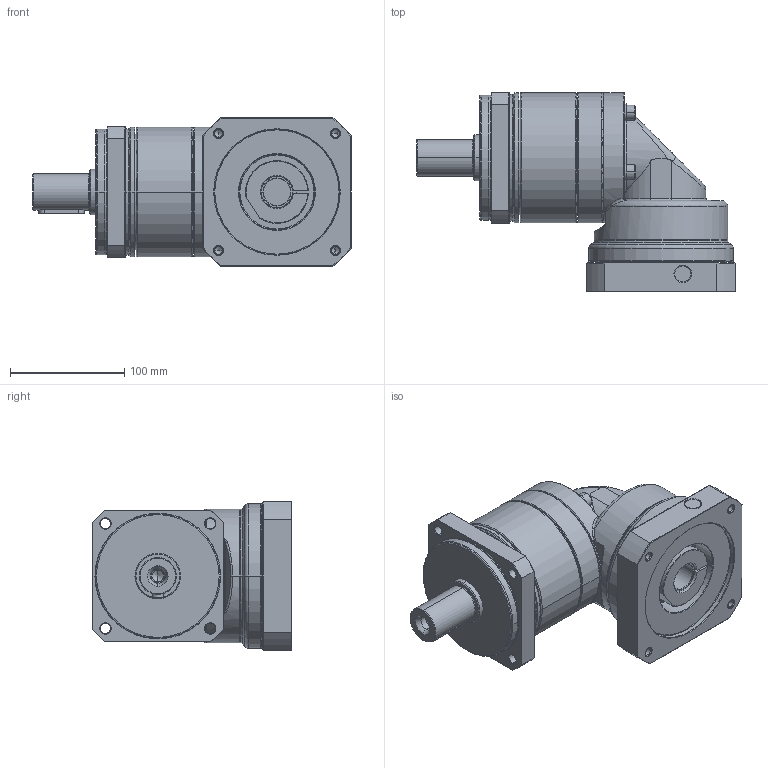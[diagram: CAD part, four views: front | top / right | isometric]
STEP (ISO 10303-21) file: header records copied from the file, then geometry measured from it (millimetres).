
FILE_DESCRIPTION((''),'2;1');
FILE_NAME('PA2R-115_1ST_24-P0411501606_ASM','2020-11-16T',('d01226'),(''),'PRO/ENGINEER BY PARAMETRIC TECHNOLOGY CORPORATION, 2015240','PRO/ENGINEER BY PARAMETRIC TECHNOLOGY CORPORATION, 2015240','');
FILE_SCHEMA(('CONFIG_CONTROL_DESIGN'));
Length unit declared in the file: millimetre
Products named in the file (12): P1327410001; P0250400001; P0350400601; P1349400001; P1017400001; P0713401001; P0503500008; P1350400101; P0411501606; P1702500001; 2111B108035; PA2R-115_1ST_24-P0411501606_ASM
Assembly tree (14 placements, depth 2):
  PA2R-115_1ST_24-P0411501606_ASM
    P1327410001
    P0250400001
    P0350400601
    P1349400001
    P1017400001
    P0713401001
    P0503500008
    P1350400101
    P0411501606
    P1702500001
    2111B108035  x4
Bounding box: 279 x 175 x 130 mm (x, y, z)
Volume: 2542504.4 mm3; surface area: 290779.7 mm2
Topology: 14 solids, 20 shells, 480 faces, 1045 edges, 618 vertices
Faces by surface type: cylinder 161, plane 145, cone 94, torus 60, bspline 20
Entity records: 12897 total; most frequent: CARTESIAN_POINT 3927, DIRECTION 1973, ORIENTED_EDGE 1698, EDGE_CURVE 861, AXIS2_PLACEMENT_3D 835, VERTEX_POINT 516, EDGE_LOOP 443, CIRCLE 427
